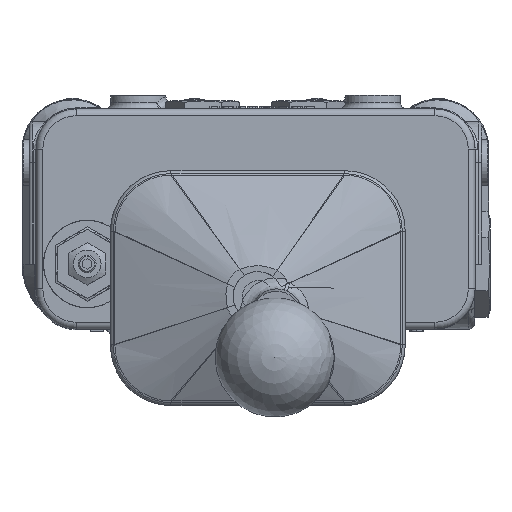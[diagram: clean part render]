
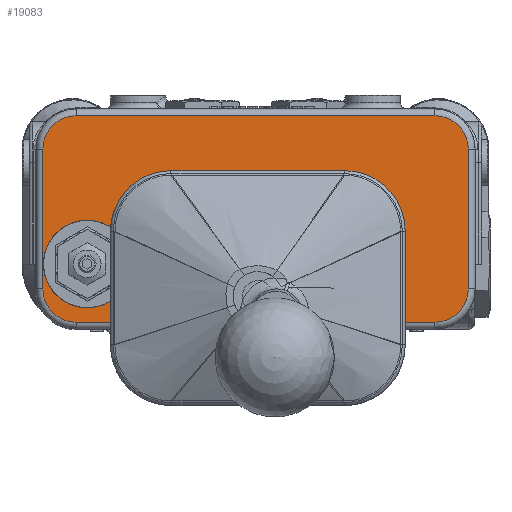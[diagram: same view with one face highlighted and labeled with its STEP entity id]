
A CAD part, top view. The second image highlights one B-rep face of the part: STEP entity #19083.
In plain terms, the highlighted planar face has unit normal (0, 0, 1).
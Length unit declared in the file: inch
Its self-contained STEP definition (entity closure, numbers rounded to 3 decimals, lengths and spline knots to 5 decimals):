
#13030=CARTESIAN_POINT('',(2.437,-0.791,-0.53));
#13031=VERTEX_POINT('',#13030);
#13039=CARTESIAN_POINT('',(2.437,0.791,-0.53));
#13040=VERTEX_POINT('',#13039);
#13041=CARTESIAN_POINT('',(2.437,-0.791,-0.53));
#13042=DIRECTION('',(0.0,1.0,0.0));
#13043=VECTOR('',#13042,1.582);
#13044=LINE('',#13041,#13043);
#13045=EDGE_CURVE('',#13031,#13040,#13044,.T.);
#13064=CARTESIAN_POINT('',(2.251,0.977,-0.53));
#13065=VERTEX_POINT('',#13064);
#13066=CARTESIAN_POINT('',(2.251,0.791,-0.53));
#13067=DIRECTION('',(0.,0.,1.0));
#13068=DIRECTION('',(0.707,0.707,0.));
#13069=AXIS2_PLACEMENT_3D('',#13066,#13067,#13068);
#13070=CIRCLE('',#13069,0.186);
#13071=EDGE_CURVE('',#13040,#13065,#13070,.T.);
#13090=CARTESIAN_POINT('',(-0.813,0.977,-0.53));
#13091=VERTEX_POINT('',#13090);
#13092=CARTESIAN_POINT('',(2.251,0.977,-0.53));
#13093=DIRECTION('',(-1.0,0.0,0.0));
#13094=VECTOR('',#13093,3.064);
#13095=LINE('',#13092,#13094);
#13096=EDGE_CURVE('',#13065,#13091,#13095,.T.);
#13115=CARTESIAN_POINT('',(-0.999,0.791,-0.53));
#13116=VERTEX_POINT('',#13115);
#13117=CARTESIAN_POINT('',(-0.813,0.791,-0.53));
#13118=DIRECTION('',(0.,0.,1.0));
#13119=DIRECTION('',(-0.707,0.707,0.));
#13120=AXIS2_PLACEMENT_3D('',#13117,#13118,#13119);
#13121=CIRCLE('',#13120,0.186);
#13122=EDGE_CURVE('',#13091,#13116,#13121,.T.);
#13351=CARTESIAN_POINT('',(-0.999,-0.791,-0.53));
#13352=VERTEX_POINT('',#13351);
#13434=CARTESIAN_POINT('',(-1.718,-0.791,-0.53));
#13435=VERTEX_POINT('',#13434);
#13436=CARTESIAN_POINT('',(-0.999,-0.791,-0.53));
#13437=DIRECTION('',(-1.0,0.0,0.0));
#13438=VECTOR('',#13437,0.719);
#13439=LINE('',#13436,#13438);
#13440=EDGE_CURVE('',#13352,#13435,#13439,.T.);
#13472=CARTESIAN_POINT('',(3.156,-0.791,-0.53));
#13473=VERTEX_POINT('',#13472);
#13481=CARTESIAN_POINT('',(3.156,-0.791,-0.53));
#13482=DIRECTION('',(-1.0,0.0,0.0));
#13483=VECTOR('',#13482,0.719);
#13484=LINE('',#13481,#13483);
#13485=EDGE_CURVE('',#13473,#13031,#13484,.T.);
#13496=CARTESIAN_POINT('',(-2.171,-0.338,-0.53));
#13497=VERTEX_POINT('',#13496);
#13498=CARTESIAN_POINT('',(-1.718,-0.338,-0.53));
#13499=DIRECTION('',(0.,0.,-1.0));
#13500=DIRECTION('',(-0.707,-0.707,0.));
#13501=AXIS2_PLACEMENT_3D('',#13498,#13499,#13500);
#13502=CIRCLE('',#13501,0.453);
#13503=EDGE_CURVE('',#13435,#13497,#13502,.T.);
#13531=CARTESIAN_POINT('',(3.609,-0.338,-0.53));
#13532=VERTEX_POINT('',#13531);
#13540=CARTESIAN_POINT('',(3.156,-0.338,-0.53));
#13541=DIRECTION('',(0.,0.,-1.0));
#13542=DIRECTION('',(0.707,-0.707,0.));
#13543=AXIS2_PLACEMENT_3D('',#13540,#13541,#13542);
#13544=CIRCLE('',#13543,0.453);
#13545=EDGE_CURVE('',#13532,#13473,#13544,.T.);
#13556=CARTESIAN_POINT('',(-2.171,1.562,-0.53));
#13557=VERTEX_POINT('',#13556);
#13558=CARTESIAN_POINT('',(-2.171,-0.338,-0.53));
#13559=DIRECTION('',(0.0,1.0,0.0));
#13560=VECTOR('',#13559,1.9);
#13561=LINE('',#13558,#13560);
#13562=EDGE_CURVE('',#13497,#13557,#13561,.T.);
#13589=CARTESIAN_POINT('',(3.609,1.562,-0.53));
#13590=VERTEX_POINT('',#13589);
#13598=CARTESIAN_POINT('',(3.609,1.562,-0.53));
#13599=DIRECTION('',(0.0,-1.0,0.0));
#13600=VECTOR('',#13599,1.9);
#13601=LINE('',#13598,#13600);
#13602=EDGE_CURVE('',#13590,#13532,#13601,.T.);
#13613=CARTESIAN_POINT('',(-1.718,2.015,-0.53));
#13614=VERTEX_POINT('',#13613);
#13615=CARTESIAN_POINT('',(-1.718,1.562,-0.53));
#13616=DIRECTION('',(0.,0.,-1.0));
#13617=DIRECTION('',(-0.707,0.707,0.));
#13618=AXIS2_PLACEMENT_3D('',#13615,#13616,#13617);
#13619=CIRCLE('',#13618,0.453);
#13620=EDGE_CURVE('',#13557,#13614,#13619,.T.);
#13656=CARTESIAN_POINT('',(3.156,2.015,-0.53));
#13657=VERTEX_POINT('',#13656);
#13665=CARTESIAN_POINT('',(3.156,1.562,-0.53));
#13666=DIRECTION('',(0.,0.,-1.0));
#13667=DIRECTION('',(0.707,0.707,0.));
#13668=AXIS2_PLACEMENT_3D('',#13665,#13666,#13667);
#13669=CIRCLE('',#13668,0.453);
#13670=EDGE_CURVE('',#13657,#13590,#13669,.T.);
#13688=CARTESIAN_POINT('',(-1.718,2.015,-0.53));
#13689=DIRECTION('',(1.0,0.0,0.0));
#13690=VECTOR('',#13689,4.874);
#13691=LINE('',#13688,#13690);
#13692=EDGE_CURVE('',#13614,#13657,#13691,.T.);
#19040=CARTESIAN_POINT('',(0.719,0.612,-0.53));
#19041=DIRECTION('',(0.0,0.0,1.0));
#19042=DIRECTION('',(1.0,0.0,0.0));
#19043=AXIS2_PLACEMENT_3D('',#19040,#19041,#19042);
#19044=PLANE('',#19043);
#19045=CARTESIAN_POINT('',(-0.999,-0.17051,-0.53));
#19046=VERTEX_POINT('',#19045);
#19047=CARTESIAN_POINT('',(-0.999,0.17051,-0.53));
#19048=VERTEX_POINT('',#19047);
#19049=CARTESIAN_POINT('',(-1.568,0.,-0.53));
#19050=DIRECTION('',(0.0,0.0,-1.0));
#19051=DIRECTION('',(1.0,0.0,0.0));
#19052=AXIS2_PLACEMENT_3D('',#19049,#19050,#19051);
#19053=CIRCLE('',#19052,0.594);
#19054=EDGE_CURVE('',#19046,#19048,#19053,.T.);
#19055=ORIENTED_EDGE('',*,*,#19054,.T.);
#19056=CARTESIAN_POINT('',(-0.999,0.791,-0.53));
#19057=DIRECTION('',(0.0,-1.0,0.0));
#19058=VECTOR('',#19057,0.62049);
#19059=LINE('',#19056,#19058);
#19060=EDGE_CURVE('',#13116,#19048,#19059,.T.);
#19061=ORIENTED_EDGE('',*,*,#19060,.F.);
#19062=ORIENTED_EDGE('',*,*,#13122,.F.);
#19063=ORIENTED_EDGE('',*,*,#13096,.F.);
#19064=ORIENTED_EDGE('',*,*,#13071,.F.);
#19065=ORIENTED_EDGE('',*,*,#13045,.F.);
#19066=ORIENTED_EDGE('',*,*,#13485,.F.);
#19067=ORIENTED_EDGE('',*,*,#13545,.F.);
#19068=ORIENTED_EDGE('',*,*,#13602,.F.);
#19069=ORIENTED_EDGE('',*,*,#13670,.F.);
#19070=ORIENTED_EDGE('',*,*,#13692,.F.);
#19071=ORIENTED_EDGE('',*,*,#13620,.F.);
#19072=ORIENTED_EDGE('',*,*,#13562,.F.);
#19073=ORIENTED_EDGE('',*,*,#13503,.F.);
#19074=ORIENTED_EDGE('',*,*,#13440,.F.);
#19075=CARTESIAN_POINT('',(-0.999,-0.17051,-0.53));
#19076=DIRECTION('',(0.0,-1.0,0.0));
#19077=VECTOR('',#19076,0.62049);
#19078=LINE('',#19075,#19077);
#19079=EDGE_CURVE('',#19046,#13352,#19078,.T.);
#19080=ORIENTED_EDGE('',*,*,#19079,.F.);
#19081=EDGE_LOOP('',(#19055,#19061,#19062,#19063,#19064,#19065,#19066,#19067,#19068,#19069,#19070,#19071,#19072,#19073,#19074,#19080));
#19082=FACE_OUTER_BOUND('',#19081,.T.);
#19083=ADVANCED_FACE('',(#19082),#19044,.T.);
